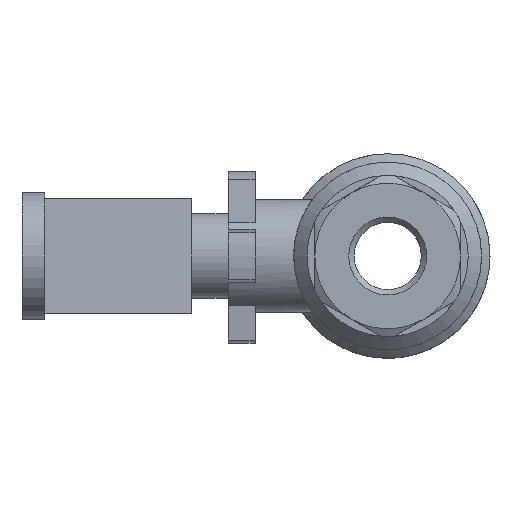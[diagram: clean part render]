
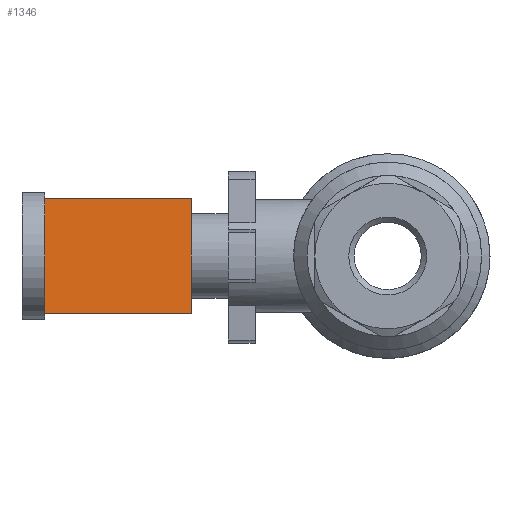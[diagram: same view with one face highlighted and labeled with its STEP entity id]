
A CAD part, left-side view. The second image highlights one B-rep face of the part: STEP entity #1346.
In plain terms, the highlighted planar face has unit normal (-0.707, -0.707, 0).
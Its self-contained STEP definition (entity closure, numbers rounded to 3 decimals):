
#267 = EDGE_CURVE ( 'NONE', #337, #432, #1813, .T. ) ;
#337 = VERTEX_POINT ( 'NONE', #3262 ) ;
#387 = CARTESIAN_POINT ( 'NONE',  ( -31.75, 51.6, -8.5 ) ) ;
#420 = VECTOR ( 'NONE', #584, 1000. ) ;
#432 = VERTEX_POINT ( 'NONE', #992 ) ;
#506 = EDGE_CURVE ( 'NONE', #432, #2537, #3272, .T. ) ;
#584 = DIRECTION ( 'NONE',  ( 0.707, -0.707, 0. ) ) ;
#615 = EDGE_CURVE ( 'NONE', #337, #1044, #1395, .T. ) ;
#831 = DIRECTION ( 'NONE',  ( 0., 0., -1. ) ) ;
#978 = FACE_OUTER_BOUND ( 'NONE', #1337, .T. ) ;
#992 = CARTESIAN_POINT ( 'NONE',  ( -9.4, 29.25, 8.5 ) ) ;
#993 = VECTOR ( 'NONE', #3183, 1000. ) ;
#1013 = ORIENTED_EDGE ( 'NONE', *, *, #267, .F. ) ;
#1044 = VERTEX_POINT ( 'NONE', #387 ) ;
#1143 = ORIENTED_EDGE ( 'NONE', *, *, #506, .F. ) ;
#1215 = CARTESIAN_POINT ( 'NONE',  ( -31.75, 51.6, 8.5 ) ) ;
#1219 = CARTESIAN_POINT ( 'NONE',  ( -31.75, 51.6, 8.5 ) ) ;
#1233 = DIRECTION ( 'NONE',  ( -0.707, 0.707, 0. ) ) ;
#1251 = DIRECTION ( 'NONE',  ( 0.707, 0.707, 0. ) ) ;
#1283 = PLANE ( 'NONE',  #1902 ) ;
#1337 = EDGE_LOOP ( 'NONE', ( #2346, #1143, #1013, #2081 ) ) ;
#1346 = ADVANCED_FACE ( 'NONE', ( #978 ), #1283, .F. ) ;
#1395 = LINE ( 'NONE', #2452, #2871 ) ;
#1801 = VECTOR ( 'NONE', #831, 1000. ) ;
#1813 = LINE ( 'NONE', #1219, #993 ) ;
#1902 = AXIS2_PLACEMENT_3D ( 'NONE', #1215, #1251, #1233 ) ;
#2081 = ORIENTED_EDGE ( 'NONE', *, *, #615, .T. ) ;
#2327 = EDGE_CURVE ( 'NONE', #1044, #2537, #3002, .T. ) ;
#2346 = ORIENTED_EDGE ( 'NONE', *, *, #2327, .T. ) ;
#2452 = CARTESIAN_POINT ( 'NONE',  ( -31.75, 51.6, 8.5 ) ) ;
#2533 = CARTESIAN_POINT ( 'NONE',  ( -9.4, 29.25, -8.5 ) ) ;
#2537 = VERTEX_POINT ( 'NONE', #2533 ) ;
#2871 = VECTOR ( 'NONE', #3024, 1000. ) ;
#3002 = LINE ( 'NONE', #3110, #420 ) ;
#3024 = DIRECTION ( 'NONE',  ( 0., 0., -1. ) ) ;
#3110 = CARTESIAN_POINT ( 'NONE',  ( -31.75, 51.6, -8.5 ) ) ;
#3126 = CARTESIAN_POINT ( 'NONE',  ( -9.4, 29.25, 8.5 ) ) ;
#3183 = DIRECTION ( 'NONE',  ( 0.707, -0.707, 0. ) ) ;
#3262 = CARTESIAN_POINT ( 'NONE',  ( -31.75, 51.6, 8.5 ) ) ;
#3272 = LINE ( 'NONE', #3126, #1801 ) ;
